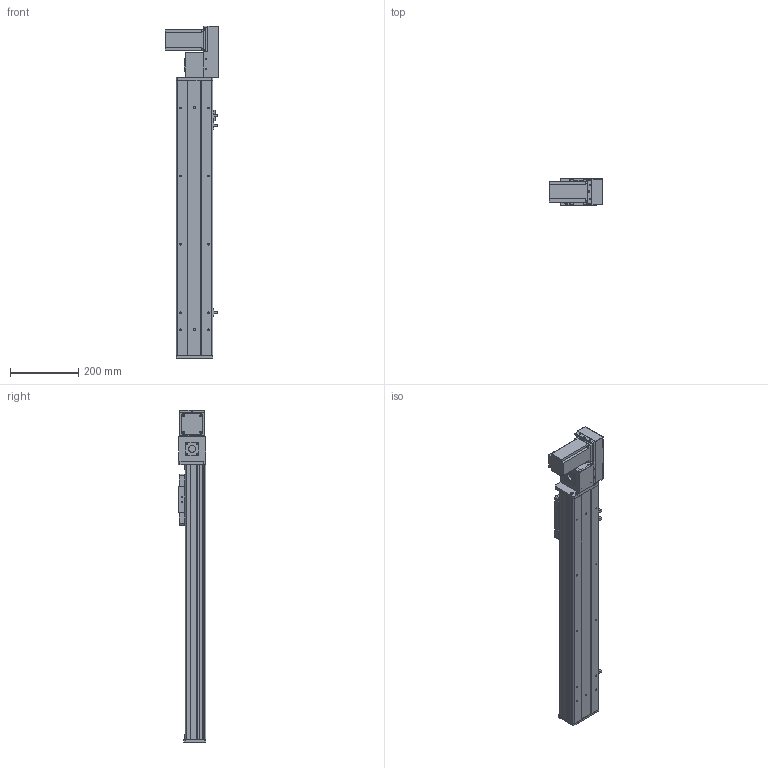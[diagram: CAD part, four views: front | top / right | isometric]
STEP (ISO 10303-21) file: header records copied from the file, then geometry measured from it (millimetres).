
FILE_DESCRIPTION (( 'STEP AP203' ), '1' );
FILE_NAME ('Y10CB-D90-S550-BR-P400W.STEP', '2020-02-16T01:39:06', ( '微软用户' ), ( '微软中国' ), 'SwSTEP 2.0', 'SolidWorks 2017', '' );
FILE_SCHEMA (( 'CONFIG_CONTROL_DESIGN' ));
Length unit declared in the file: millimetre
Products named in the file (18): Y10CB- 掛极耜裔啣-毀---; Y10B-々湍喘謫眊楊擘啣--; Y10C---詩湍揤啣; Y10B-耜蚾蟀諉啣----; 10CB9-掛极; 0B-萇儂楊擘啣; 10CB-耜裔; san松下电机400不带刹车----; Y100-135俋离換覜ん--; Y135C-陔俋离換覜結え-; 0B-源倛裔啣; Y10B--々湍喘謫眊--666; 0B-埴倛裔啣; Y10CB-D90-S550-BR-P400W; Y俋欶BR----; 0CB-雄赽釱---; 10CB-詩湍-; 0Cb-俋欶---
Assembly tree (21 placements, depth 2):
  Y10CB-D90-S550-BR-P400W
    0CB-雄赽釱---
    0Cb-俋欶---
    Y10B-々湍喘謫眊楊擘啣--
    Y10B-耜蚾蟀諉啣----
    0B-萇儂楊擘啣
    san松下电机400不带刹车----
    0B-源倛裔啣
    0B-埴倛裔啣
    Y俋欶BR----
    10CB-詩湍-
    Y10CB- 掛极耜裔啣-毀---  x2
    Y10C---詩湍揤啣  x2
    10CB9-掛极
    10CB-耜裔
    Y135C-陔俋离換覜結え-
    Y100-135俋离換覜ん--  x3
    Y10B--々湍喘謫眊--666
Bounding box: 157.5 x 80.5 x 972.5 mm (x, y, z)
Volume: 2351384.4 mm3; surface area: 1016567.7 mm2
Topology: 21 solids, 21 shells, 966 faces, 2563 edges, 1682 vertices
Faces by surface type: plane 475, cylinder 467, cone 24
Entity records: 29904 total; most frequent: CARTESIAN_POINT 5173, DIRECTION 4858, ORIENTED_EDGE 4596, EDGE_CURVE 2298, AXIS2_PLACEMENT_3D 1737, VERTEX_POINT 1508, LINE 1384, VECTOR 1384
